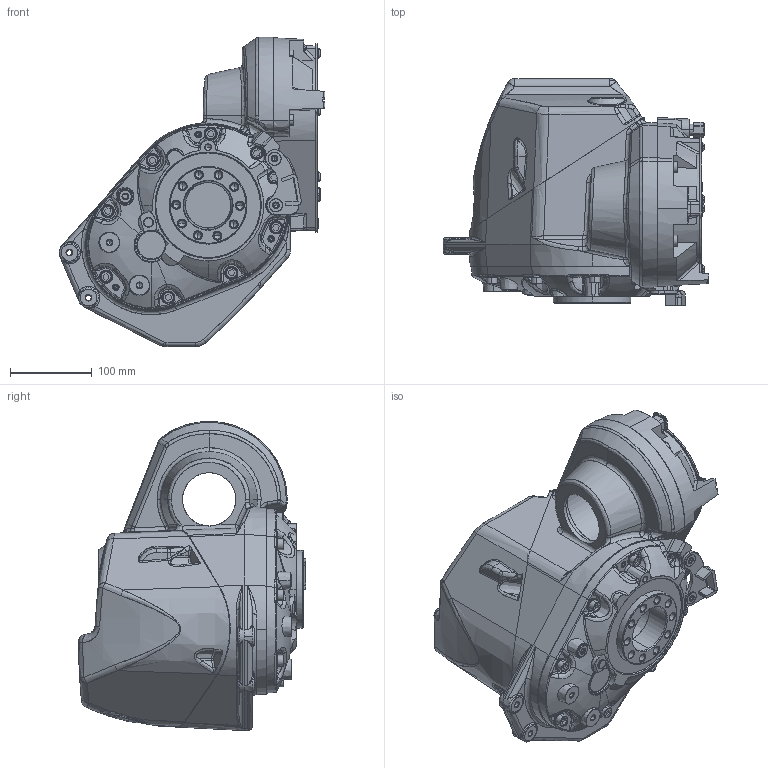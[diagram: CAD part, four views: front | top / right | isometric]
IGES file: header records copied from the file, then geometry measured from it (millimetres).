
Start section: SolidWorks IGES file using analytic representation for surfaces
Global section: file name: C:\Users\CNYUGAO6\Desktop\web model\IRB1660ID_4-155_IRC5_rev0_LINK3.IGS; native system: SolidWorks 2014; preprocessor: SolidWorks 2014; author: CNYUGAO6; date: 160905.132407; units: millimetre
Bounding box: 325.5 x 277.98 x 378.55 mm (x, y, z)
Surface area: 514790.9 mm2 (no closed solid volume)
Topology: 0 solids, 0 shells, 1581 faces, 17695 edges, 17637 vertices
Faces by surface type: bspline 943, revolution 638
